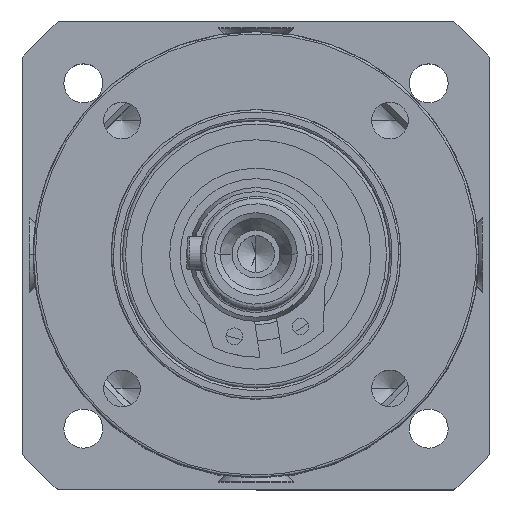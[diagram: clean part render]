
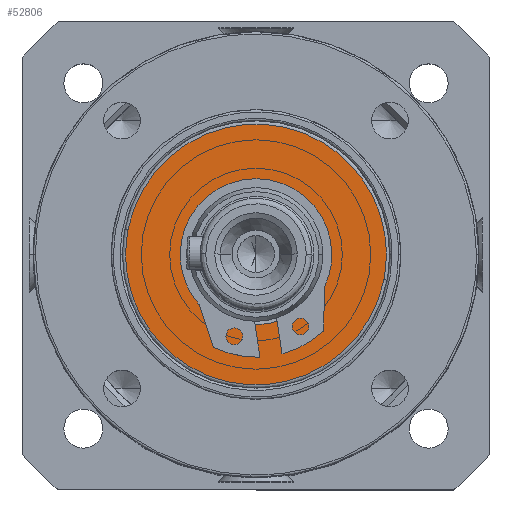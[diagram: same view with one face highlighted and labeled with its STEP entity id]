
A CAD part, top view. The second image highlights one B-rep face of the part: STEP entity #52806.
In plain terms, the highlighted planar face has unit normal (0, 0, 1).
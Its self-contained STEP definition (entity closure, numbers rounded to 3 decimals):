
#2022 = EDGE_CURVE ( 'NONE', #44442, #37397, #6708, .T. ) ;
#2275 = AXIS2_PLACEMENT_3D ( 'NONE', #39875, #27237, #10615 ) ;
#2922 = VERTEX_POINT ( 'NONE', #33822 ) ;
#3883 = CARTESIAN_POINT ( 'NONE',  ( 1.372, 12.65, 46.25 ) ) ;
#6708 =( BOUNDED_CURVE ( )  B_SPLINE_CURVE ( 3, ( #11658, #20251, #45465, #3883 ),
 .UNSPECIFIED., .F., .F. ) 
 B_SPLINE_CURVE_WITH_KNOTS ( ( 4, 4 ),
 ( 0., 1. ),
 .UNSPECIFIED. ) 
 CURVE ( )  GEOMETRIC_REPRESENTATION_ITEM ( )  RATIONAL_B_SPLINE_CURVE ( ( 1., 0.333, 0.333, 1. ) ) 
 REPRESENTATION_ITEM ( '' )  );
#7569 = ORIENTED_EDGE ( 'NONE', *, *, #14250, .F. ) ;
#9836 = CARTESIAN_POINT ( 'NONE',  ( 1.372, 12.65, 46.25 ) ) ;
#10098 = CARTESIAN_POINT ( 'NONE',  ( -10.992, 15.075, 46.25 ) ) ;
#10615 = DIRECTION ( 'NONE',  ( -1., 0., 0. ) ) ;
#11658 = CARTESIAN_POINT ( 'NONE',  ( -10.992, 15.075, 46.25 ) ) ;
#14208 = CARTESIAN_POINT ( 'NONE',  ( 1.372, 12.65, 46.25 ) ) ;
#14250 = EDGE_CURVE ( 'NONE', #2922, #40495, #31565, .T. ) ;
#20251 = CARTESIAN_POINT ( 'NONE',  ( -13.417, 2.71, 46.25 ) ) ;
#22887 = CARTESIAN_POINT ( 'NONE',  ( 11.175, 34.573, 46.25 ) ) ;
#23852 = CARTESIAN_POINT ( 'NONE',  ( 2.168, -11.352, 46.25 ) ) ;
#25435 = CARTESIAN_POINT ( 'NONE',  ( -16.291, 16.114, 46.25 ) ) ;
#26448 = CARTESIAN_POINT ( 'NONE',  ( -8.567, 27.439, 46.25 ) ) ;
#26979 = FACE_OUTER_BOUND ( 'NONE', #37711, .T. ) ;
#27237 = DIRECTION ( 'NONE',  ( 0., 0., -1. ) ) ;
#27763 = PLANE ( 'NONE',  #2275 ) ;
#27899 = CARTESIAN_POINT ( 'NONE',  ( -20.795, -6.849, 46.25 ) ) ;
#28161 = CARTESIAN_POINT ( 'NONE',  ( 6.671, 11.61, 46.25 ) ) ;
#29961 = CARTESIAN_POINT ( 'NONE',  ( -10.992, 15.075, 46.25 ) ) ;
#29985 =( BOUNDED_CURVE ( )  B_SPLINE_CURVE ( 3, ( #9836, #51384, #26448, #29961 ),
 .UNSPECIFIED., .F., .F. ) 
 B_SPLINE_CURVE_WITH_KNOTS ( ( 4, 4 ),
 ( 0., 1. ),
 .UNSPECIFIED. ) 
 CURVE ( )  GEOMETRIC_REPRESENTATION_ITEM ( )  RATIONAL_B_SPLINE_CURVE ( ( 1., 0.333, 0.333, 1. ) ) 
 REPRESENTATION_ITEM ( '' )  );
#31565 =( BOUNDED_CURVE ( )  B_SPLINE_CURVE ( 3, ( #28161, #23852, #27899, #52285 ),
 .UNSPECIFIED., .F., .T. ) 
 B_SPLINE_CURVE_WITH_KNOTS ( ( 4, 4 ),
 ( 0., 1. ),
 .UNSPECIFIED. ) 
 CURVE ( )  GEOMETRIC_REPRESENTATION_ITEM ( )  RATIONAL_B_SPLINE_CURVE ( ( 1., 0.333, 0.333, 1. ) ) 
 REPRESENTATION_ITEM ( '' )  );
#32638 = EDGE_CURVE ( 'NONE', #37397, #44442, #29985, .T. ) ;
#33822 = CARTESIAN_POINT ( 'NONE',  ( 6.671, 11.61, 46.25 ) ) ;
#37397 = VERTEX_POINT ( 'NONE', #14208 ) ;
#37711 = EDGE_LOOP ( 'NONE', ( #7569, #47983 ) ) ;
#39875 = CARTESIAN_POINT ( 'NONE',  ( -2.558, 25.343, 46.25 ) ) ;
#40495 = VERTEX_POINT ( 'NONE', #25435 ) ;
#41271 = ORIENTED_EDGE ( 'NONE', *, *, #32638, .F. ) ;
#41587 = EDGE_CURVE ( 'NONE', #40495, #2922, #44088, .T. ) ;
#42525 = CARTESIAN_POINT ( 'NONE',  ( 6.671, 11.61, 46.25 ) ) ;
#43318 = CARTESIAN_POINT ( 'NONE',  ( -11.788, 39.076, 46.25 ) ) ;
#44088 =( BOUNDED_CURVE ( )  B_SPLINE_CURVE ( 3, ( #51344, #43318, #22887, #42525 ),
 .UNSPECIFIED., .F., .F. ) 
 B_SPLINE_CURVE_WITH_KNOTS ( ( 4, 4 ),
 ( 0., 1. ),
 .UNSPECIFIED. ) 
 CURVE ( )  GEOMETRIC_REPRESENTATION_ITEM ( )  RATIONAL_B_SPLINE_CURVE ( ( 1., 0.333, 0.333, 1. ) ) 
 REPRESENTATION_ITEM ( '' )  );
#44442 = VERTEX_POINT ( 'NONE', #10098 ) ;
#45465 = CARTESIAN_POINT ( 'NONE',  ( -1.053, 0.285, 46.25 ) ) ;
#47983 = ORIENTED_EDGE ( 'NONE', *, *, #41587, .F. ) ;
#51344 = CARTESIAN_POINT ( 'NONE',  ( -16.291, 16.114, 46.25 ) ) ;
#51371 = EDGE_LOOP ( 'NONE', ( #51761, #41271 ) ) ;
#51384 = CARTESIAN_POINT ( 'NONE',  ( 3.797, 25.014, 46.25 ) ) ;
#51761 = ORIENTED_EDGE ( 'NONE', *, *, #2022, .F. ) ;
#52285 = CARTESIAN_POINT ( 'NONE',  ( -16.291, 16.114, 46.25 ) ) ;
#52424 = FACE_BOUND ( 'NONE', #51371, .T. ) ;
#52806 = ADVANCED_FACE ( 'NONE', ( #26979, #52424 ), #27763, .F. ) ;
